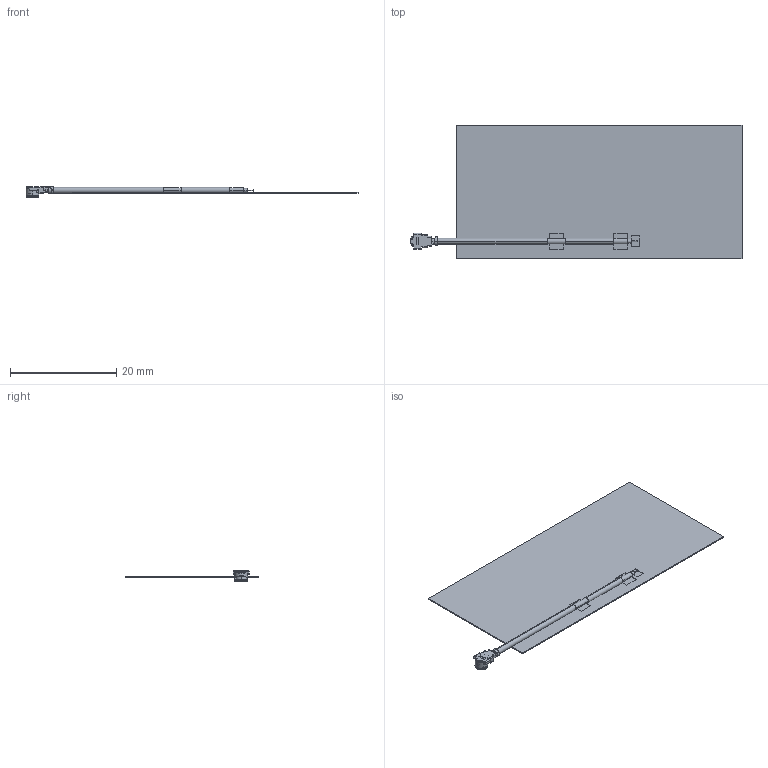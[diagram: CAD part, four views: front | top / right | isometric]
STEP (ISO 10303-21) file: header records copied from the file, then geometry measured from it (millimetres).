
FILE_DESCRIPTION((''),'2;1');
FILE_NAME('1002289_ASM_ASM','2018-01-19T',('mrodriguez'),(''),'CREO PARAMETRIC BY PTC INC, 2016130','CREO PARAMETRIC BY PTC INC, 2016130','');
FILE_SCHEMA(('AUTOMOTIVE_DESIGN { 1 0 10303 214 1 1 1 1 }'));
Length unit declared in the file: millimetre
Products named in the file (6): 1002290_1; 1002291_1; HIROSE_NEW_1; 1002291_ASM_1_ASM; 1002289_ASM_1_ASM; 1002289_ASM_ASM
Assembly tree (5 placements, depth 4):
  1002289_ASM_ASM
    1002289_ASM_1_ASM
      1002290_1
      1002291_ASM_1_ASM
        1002291_1
        HIROSE_NEW_1
Bounding box: 62.43 x 25.1 x 1.93 mm (x, y, z)
Volume: 303.1 mm3; surface area: 2954.5 mm2
Topology: 3 solids, 4 shells, 460 faces, 1305 edges, 835 vertices
Faces by surface type: plane 240, cylinder 127, cone 62, bspline 13, torus 13, sphere 4, revolution 1
Entity records: 16739 total; most frequent: CARTESIAN_POINT 4162, ORIENTED_EDGE 2546, DIRECTION 2522, EDGE_CURVE 1301, AXIS2_PLACEMENT_3D 859, VERTEX_POINT 835, VECTOR 803, LINE 803
